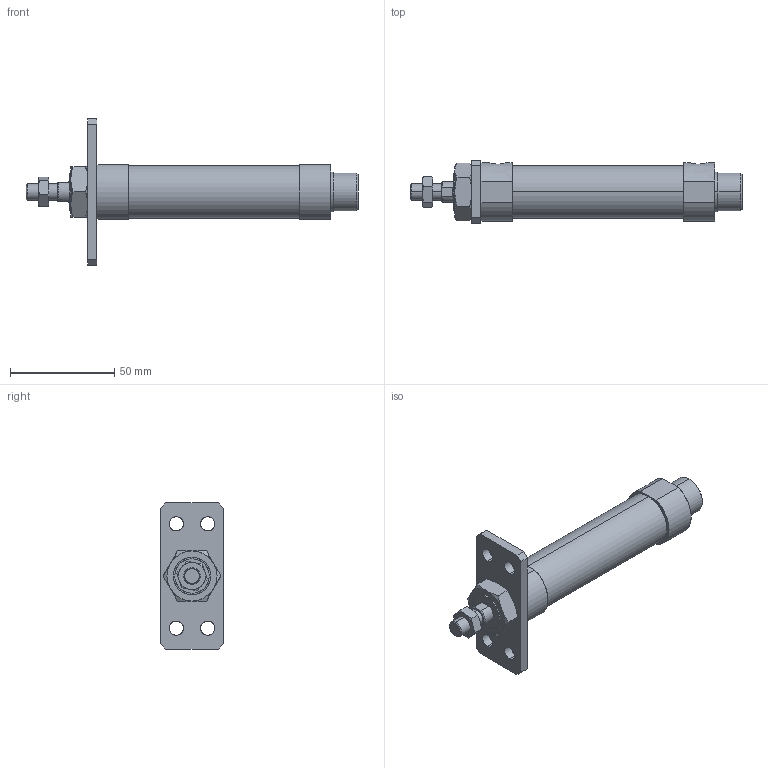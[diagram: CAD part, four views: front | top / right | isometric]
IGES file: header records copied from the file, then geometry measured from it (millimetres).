
Start section: SolidWorks IGES file using analytic representation for surfaces
Global section: file name: C:\Users\Toshiba\Desktop\J#2-20-50-A.IGS; native system: SolidWorks 2014; preprocessor: SolidWorks 2014; author: Toshiba; date: 160308.145626; units: millimetre
Bounding box: 159 x 30 x 70 mm (x, y, z)
Surface area: 20213 mm2 (no closed solid volume)
Topology: 0 solids, 0 shells, 112 faces, 2028 edges, 2028 vertices
Faces by surface type: bspline 70, revolution 42
